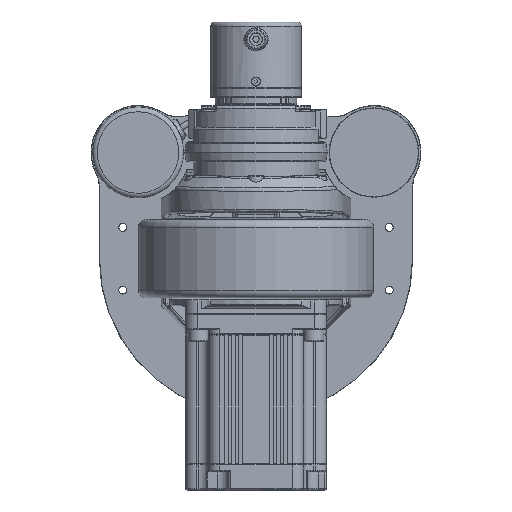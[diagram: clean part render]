
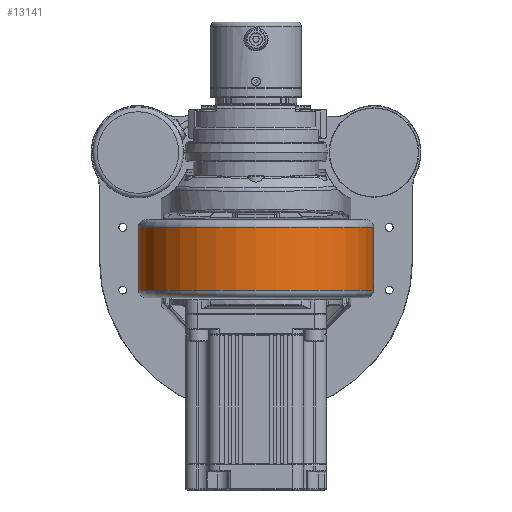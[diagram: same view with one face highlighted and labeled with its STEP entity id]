
A CAD part, front view. The second image highlights one B-rep face of the part: STEP entity #13141.
In plain terms, the highlighted cylindrical face has radius 75 mm (diameter 150 mm), a full revolution.
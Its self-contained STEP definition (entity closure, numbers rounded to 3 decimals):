
#12685 = FACE_OUTER_BOUND ( 'NONE', #101870, .T. ) ;
#13141 = ADVANCED_FACE ( 'NONE', ( #16977, #12685 ), #34328, .T. ) ;
#16977 = FACE_OUTER_BOUND ( 'NONE', #97764, .T. ) ;
#22063 = DIRECTION ( 'NONE',  ( 0., 0., 1. ) ) ;
#32707 = CARTESIAN_POINT ( 'NONE',  ( -48.529, 31.583, 255.703 ) ) ;
#34059 = CARTESIAN_POINT ( 'NONE',  ( -123.529, 31.583, 255.703 ) ) ;
#34328 = CYLINDRICAL_SURFACE ( 'NONE', #56188, 75. ) ;
#42017 = CIRCLE ( 'NONE', #60080, 75. ) ;
#42734 = DIRECTION ( 'NONE',  ( 0., 0., -1. ) ) ;
#46727 = CARTESIAN_POINT ( 'NONE',  ( -48.529, 31.583, 215.703 ) ) ;
#50109 = CARTESIAN_POINT ( 'NONE',  ( -123.529, 31.583, 215.703 ) ) ;
#55165 = DIRECTION ( 'NONE',  ( -1., 0., 0. ) ) ;
#56188 = AXIS2_PLACEMENT_3D ( 'NONE', #104577, #22063, #87282 ) ;
#60080 = AXIS2_PLACEMENT_3D ( 'NONE', #46727, #109613, #55165 ) ;
#60273 = EDGE_CURVE ( 'NONE', #64225, #64225, #42017, .T. ) ;
#64225 = VERTEX_POINT ( 'NONE', #50109 ) ;
#69800 = AXIS2_PLACEMENT_3D ( 'NONE', #32707, #42734, #116762 ) ;
#87282 = DIRECTION ( 'NONE',  ( 1., 0., 0. ) ) ;
#97764 = EDGE_LOOP ( 'NONE', ( #119401 ) ) ;
#100980 = ORIENTED_EDGE ( 'NONE', *, *, #60273, .T. ) ;
#101870 = EDGE_LOOP ( 'NONE', ( #100980 ) ) ;
#104577 = CARTESIAN_POINT ( 'NONE',  ( -48.529, 31.583, 210.703 ) ) ;
#106162 = EDGE_CURVE ( 'NONE', #108487, #108487, #118946, .T. ) ;
#108487 = VERTEX_POINT ( 'NONE', #34059 ) ;
#109613 = DIRECTION ( 'NONE',  ( 0., 0., 1. ) ) ;
#116762 = DIRECTION ( 'NONE',  ( -1., 0., 0. ) ) ;
#118946 = CIRCLE ( 'NONE', #69800, 75. ) ;
#119401 = ORIENTED_EDGE ( 'NONE', *, *, #106162, .T. ) ;
